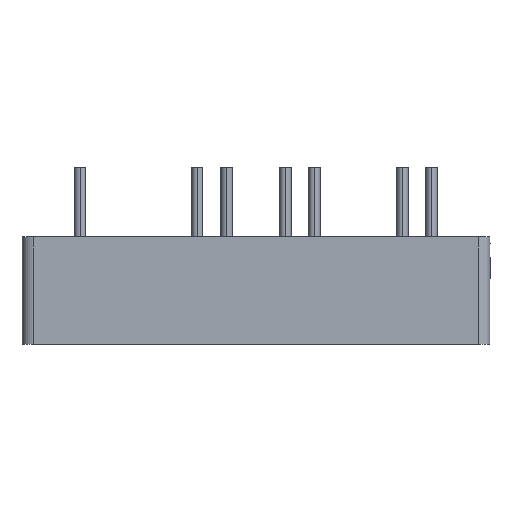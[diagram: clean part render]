
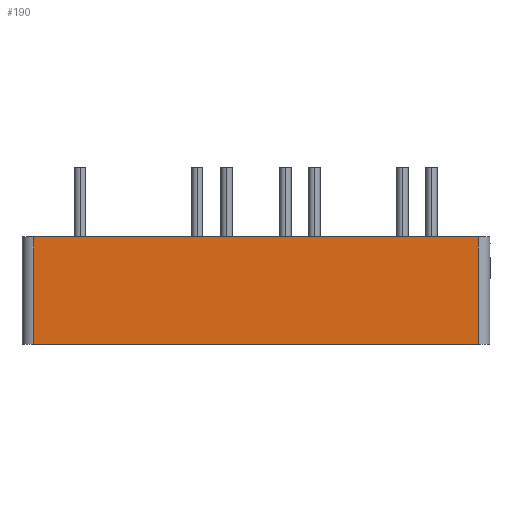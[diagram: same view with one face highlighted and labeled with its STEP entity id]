
A CAD part, left-side view. The second image highlights one B-rep face of the part: STEP entity #190.
In plain terms, the highlighted planar face has unit normal (-1, 0, 0).
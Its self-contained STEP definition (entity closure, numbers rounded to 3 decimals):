
#11 = CARTESIAN_POINT ( 'NONE',  ( -25.4, -21.23, 9.3 ) ) ;
#80 = EDGE_LOOP ( 'NONE', ( #3813, #3364, #2491, #2449 ) ) ;
#190 = ADVANCED_FACE ( 'NONE', ( #3360 ), #385, .T. ) ;
#310 = VERTEX_POINT ( 'NONE', #2610 ) ;
#352 = VERTEX_POINT ( 'NONE', #2064 ) ;
#385 = PLANE ( 'NONE',  #3442 ) ;
#417 = DIRECTION ( 'NONE',  ( 0., 0., 1. ) ) ;
#524 = DIRECTION ( 'NONE',  ( 0., -1., 0. ) ) ;
#625 = VERTEX_POINT ( 'NONE', #2395 ) ;
#723 = EDGE_CURVE ( 'NONE', #352, #625, #2220, .T. ) ;
#864 = LINE ( 'NONE', #11, #2406 ) ;
#970 = VECTOR ( 'NONE', #1957, 1000. ) ;
#1187 = EDGE_CURVE ( 'NONE', #352, #310, #864, .T. ) ;
#1321 = CARTESIAN_POINT ( 'NONE',  ( -25.4, -21.23, -0.465 ) ) ;
#1431 = CARTESIAN_POINT ( 'NONE',  ( -25.4, -21.23, 0. ) ) ;
#1639 = VERTEX_POINT ( 'NONE', #2439 ) ;
#1793 = LINE ( 'NONE', #2252, #970 ) ;
#1957 = DIRECTION ( 'NONE',  ( 0., 0., -1. ) ) ;
#2064 = CARTESIAN_POINT ( 'NONE',  ( -25.4, -19.3, 9.3 ) ) ;
#2149 = DIRECTION ( 'NONE',  ( 0., 1., 0. ) ) ;
#2220 = LINE ( 'NONE', #3330, #2938 ) ;
#2246 = DIRECTION ( 'NONE',  ( -1., 0., 0. ) ) ;
#2252 = CARTESIAN_POINT ( 'NONE',  ( -25.4, 19.3, -0.465 ) ) ;
#2395 = CARTESIAN_POINT ( 'NONE',  ( -25.4, -19.3, 0. ) ) ;
#2406 = VECTOR ( 'NONE', #2149, 1000. ) ;
#2439 = CARTESIAN_POINT ( 'NONE',  ( -25.4, 19.3, 0. ) ) ;
#2449 = ORIENTED_EDGE ( 'NONE', *, *, #1187, .T. ) ;
#2483 = EDGE_CURVE ( 'NONE', #310, #1639, #1793, .T. ) ;
#2491 = ORIENTED_EDGE ( 'NONE', *, *, #723, .F. ) ;
#2610 = CARTESIAN_POINT ( 'NONE',  ( -25.4, 19.3, 9.3 ) ) ;
#2739 = LINE ( 'NONE', #1431, #3553 ) ;
#2780 = EDGE_CURVE ( 'NONE', #1639, #625, #2739, .T. ) ;
#2938 = VECTOR ( 'NONE', #3034, 1000. ) ;
#3034 = DIRECTION ( 'NONE',  ( 0., 0., -1. ) ) ;
#3330 = CARTESIAN_POINT ( 'NONE',  ( -25.4, -19.3, 4.65 ) ) ;
#3360 = FACE_OUTER_BOUND ( 'NONE', #80, .T. ) ;
#3364 = ORIENTED_EDGE ( 'NONE', *, *, #2780, .T. ) ;
#3442 = AXIS2_PLACEMENT_3D ( 'NONE', #1321, #2246, #417 ) ;
#3553 = VECTOR ( 'NONE', #524, 1000. ) ;
#3813 = ORIENTED_EDGE ( 'NONE', *, *, #2483, .T. ) ;
